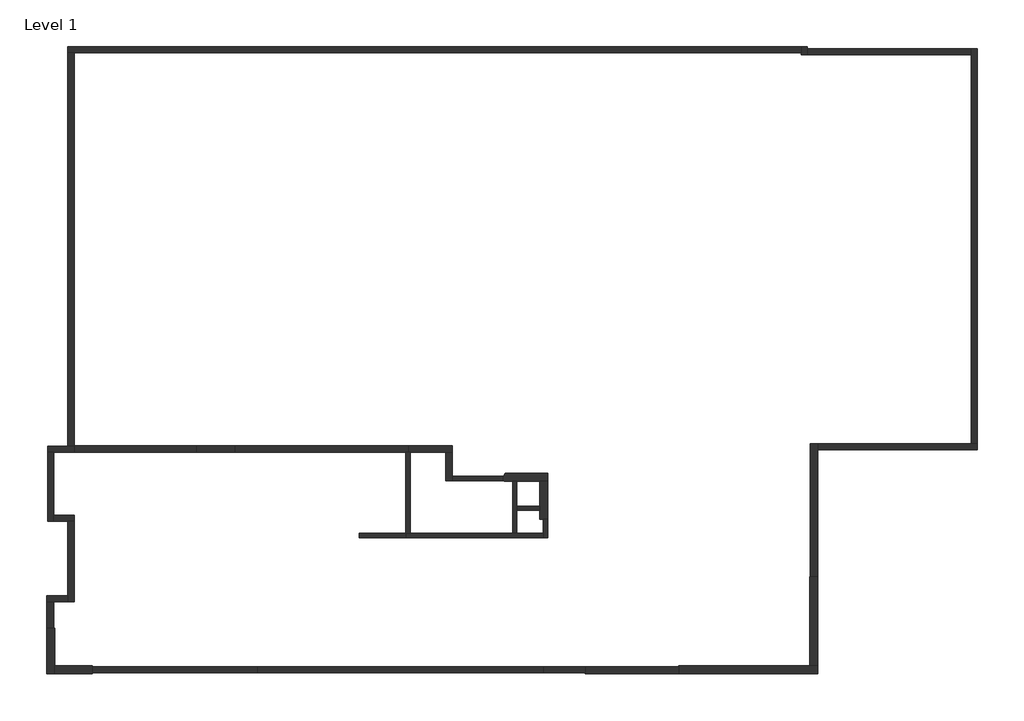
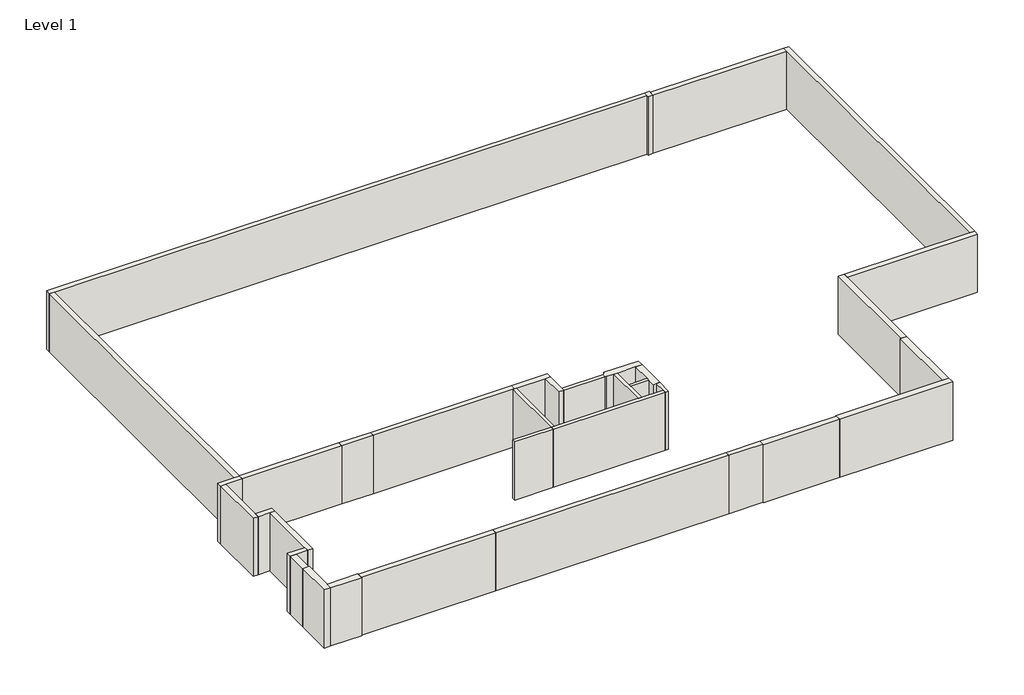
# One storey: 35 walls.
"""IFC4 building model written with IfcOpenShell, lengths in millimetres."""

from ifc_helpers import new_model, si_unit, frame, origin, origin_with_axes, place, context, project, spatial, polyline, circle_curve, outline, extrude, faceted_brep, element, save
from ifc_brep_helpers import plane_surface, cylinder_surface, revolved_surface, advanced_brep

model = new_model("IFC4")

# Units and contexts
model_context = context("Model", 3, world=origin())
ifc_project = project(units=[si_unit("LENGTHUNIT", "METRE", prefix="MILLI")], contexts=[model_context])

# Site, building, storey
site = spatial("IfcSite", under=ifc_project)
building = spatial("IfcBuilding", under=site)
storey = spatial("IfcBuildingStorey", under=building, Name="Level 1", Elevation=0.0)

# Walls
placement = place(None, origin())
element("IfcWall", 1, ObjectType="1-1 (202mm)", at=placement, inside=storey, context=model_context, shape_type="SweptSolid", body=[
    extrude(outline(polyline([(-3604.2468006, -12070.9136722), (-1302.3900006, -12070.9136722), (-1302.3900006, -12272.9136722), (-3604.2468006, -12272.9136722), (-3604.2468006, -12070.9136722)])), origin_with_axes(), (0.0, 0.0, 1.0), 3700.0),
])
element("IfcWall", 2, ObjectType="1-2 (202mm)", at=placement, inside=storey, context=model_context, shape_type="Brep", body=[
    faceted_brep([(5449.3363994, -12070.9136722, 0.0), (4148.6139994, -12070.9136722, 0.0), (3946.6139994, -12070.9136722, 0.0), (-1100.3900006, -12070.9136722, 0.0), (-1302.3900006, -12070.9136722, 0.0), (-1302.3900006, -12070.9136722, 3700.0), (-1100.3900006, -12070.9136722, 3700.0), (3946.6139994, -12070.9136722, 3700.0), (4148.6139994, -12070.9136722, 3700.0), (5449.3363994, -12070.9136722, 3700.0), (5449.3363994, -12272.9136722, 0.0), (5449.3363994, -12272.9136722, 3700.0), (-1302.3900006, -12272.9136722, 3700.0), (-1302.3900006, -12272.9136722, 0.0)], [[[0, 1, 2, 3, 4, 5, 6, 7, 8, 9]], [[10, 11, 12, 13]], [[4, 3, 2, 1, 0, 10, 13]], [[9, 8, 7, 6, 5, 12, 11]], [[0, 9, 11, 10]], [[5, 4, 13, 12]]]),
])
element("IfcWall", 3, ObjectType="1-2 (202mm)", at=placement, inside=storey, context=model_context, shape_type="Brep", body=[
    faceted_brep([(-1100.3900006, -12070.9136722, 0.0), (-1100.3900006, -8073.7104722, 0.0), (-1100.3900006, -8073.7104722, 3700.0), (-1100.3900006, -12070.9136722, 3700.0), (-1302.3900006, -12070.9136722, 0.0), (-1302.3900006, -12070.9136722, 3700.0), (-1302.3900006, -8073.7104722, 3700.0), (-1302.3900006, -8073.7104722, 0.0), (-1201.3900006, -8073.7104722, 0.0), (-1201.3900006, -8073.7104722, 3700.0)], [[[0, 1, 2, 3]], [[4, 5, 6, 7]], [[1, 0, 4, 7, 8]], [[3, 2, 9, 6, 5]], [[2, 1, 8, 7, 6, 9]], [[0, 3, 5, 4]]]),
])
element("IfcWall", 4, ObjectType="1-2 (308mm)", at=placement, inside=storey, context=model_context, shape_type="Brep", body=[
    faceted_brep([(-9700.7964006, -8073.7104722, 0.0), (-1302.3900006, -8073.7104722, 0.0), (-1201.3900006, -8073.7104722, 0.0), (-1201.3900006, -8073.7104722, 3700.0), (-1302.3900006, -8073.7104722, 3700.0), (-9700.7964006, -8073.7104722, 3700.0), (-9700.7964006, -7764.7104722, 0.0), (-9700.7964006, -7764.7104722, 3700.0), (-1201.3900006, -7764.7104722, 3700.0), (-1201.3900006, -7764.7104722, 0.0)], [[[0, 1, 2, 3, 4, 5]], [[6, 7, 8, 9]], [[2, 1, 0, 6, 9]], [[3, 2, 9, 8]], [[5, 4, 3, 8, 7]], [[0, 5, 7, 6]]]),
])
element("IfcWall", 5, ObjectType="2-2 (202mm)", at=placement, inside=storey, context=model_context, shape_type="SweptSolid", body=[
    extrude(outline(polyline([(3442.2435994, -9470.2344722), (961.7435994, -9470.2344722), (961.7435994, -9268.2344722), (3442.2435994, -9268.2344722), (3442.2435994, -9470.2344722)])), origin_with_axes(), (0.0, 0.0, 1.0), 3700.0),
])
element("IfcWall", 6, ObjectType="2-2 (202mm)", at=placement, inside=storey, context=model_context, shape_type="Brep", body=[
    faceted_brep([(5449.3363994, -11367.5808722, 0.0), (5449.3363994, -12070.9136722, 0.0), (5449.3363994, -12272.9136722, 0.0), (5449.3363994, -12272.9136722, 3700.0), (5449.3363994, -12070.9136722, 3700.0), (5449.3363994, -11367.5808722, 3700.0), (5651.3363994, -11367.5808722, 0.0), (5651.3363994, -11367.5808722, 3700.0), (5651.3363994, -12272.9136722, 3700.0), (5651.3363994, -12272.9136722, 0.0)], [[[0, 1, 2, 3, 4, 5]], [[6, 7, 8, 9]], [[2, 1, 0, 6, 9]], [[5, 4, 3, 8, 7]], [[0, 5, 7, 6]], [[3, 2, 9, 8]]]),
])
element("IfcWall", 7, ObjectType="2-2 (202mm)", at=placement, inside=storey, context=model_context, shape_type="Brep", body=[
    faceted_brep([(4148.6139994, -12070.9136722, 0.0), (4148.6139994, -10924.5456722, 0.0), (4148.6139994, -10722.5456722, 0.0), (4148.6139994, -9518.3904722, 0.0), (4148.6139994, -9518.3904722, 3700.0), (4148.6139994, -10722.5456722, 3700.0), (4148.6139994, -10924.5456722, 3700.0), (4148.6139994, -12070.9136722, 3700.0), (3946.6139994, -12070.9136722, 0.0), (3946.6139994, -12070.9136722, 3700.0), (3946.6139994, -9518.3904722, 3700.0), (3946.6139994, -9518.3904722, 0.0)], [[[0, 1, 2, 3, 4, 5, 6, 7]], [[8, 9, 10, 11]], [[3, 2, 1, 0, 8, 11]], [[7, 6, 5, 4, 10, 9]], [[4, 3, 11, 10]], [[0, 7, 9, 8]]]),
])
element("IfcWall", 8, ObjectType="2-2 (202mm)", at=placement, inside=storey, context=model_context, shape_type="SweptSolid", body=[
    extrude(outline(polyline([(5256.3363994, -10924.5456722), (4148.6139994, -10924.5456722), (4148.6139994, -10722.5456722), (5256.3363994, -10722.5456722), (5256.3363994, -10924.5456722)])), origin_with_axes(), (0.0, 0.0, 1.0), 3700.0),
])
element("IfcWall", 9, ObjectType="2-2 (308mm)", at=placement, inside=storey, context=model_context, shape_type="Brep", body=[
    faceted_brep([(-17598.9476006, -8074.5120722, 0.0), (-11598.1428006, -8074.5120722, 0.0), (-11598.1428006, -8074.5120722, 3700.0), (-17598.9476006, -8074.5120722, 3700.0), (-17598.9476006, -7765.5120722, 0.0), (-17598.9476006, -7765.5120722, 3700.0), (-11598.1428006, -7765.5120722, 3700.0), (-11598.1428006, -7765.5120722, 0.0), (-17598.9476006, -7776.5120722, 0.0), (-11598.1428006, -8073.7104722, 0.0), (-11598.1428006, -8073.7104722, 3700.0), (-17598.9476006, -7776.5120722, 3700.0)], [[[0, 1, 2, 3]], [[4, 5, 6, 7]], [[1, 0, 8, 4, 7, 9]], [[2, 1, 9, 7, 6, 10]], [[3, 2, 10, 6, 5, 11]], [[0, 3, 11, 5, 4, 8]]]),
])
element("IfcWall", 10, ObjectType="2-2 (308mm)", at=placement, inside=storey, context=model_context, shape_type="Brep", body=[
    faceted_brep([(-1201.3900006, -8073.7104722, 0.0), (-1100.3900006, -8073.7104722, 0.0), (652.7435994, -8073.7104722, 0.0), (961.7435994, -8073.7104722, 0.0), (961.7435994, -8073.7104722, 3700.0), (652.7435994, -8073.7104722, 3700.0), (-1100.3900006, -8073.7104722, 3700.0), (-1201.3900006, -8073.7104722, 3700.0), (-1201.3900006, -7764.7104722, 0.0), (-1201.3900006, -7764.7104722, 3700.0), (961.7435994, -7764.7104722, 3700.0), (961.7435994, -7764.7104722, 0.0)], [[[0, 1, 2, 3, 4, 5, 6, 7]], [[8, 9, 10, 11]], [[3, 2, 1, 0, 8, 11]], [[7, 6, 5, 4, 10, 9]], [[0, 7, 9, 8]], [[4, 3, 11, 10]]]),
])
element("IfcWall", 11, ObjectType="2-2 (308mm)", at=placement, inside=storey, context=model_context, shape_type="Brep", body=[
    faceted_brep([(652.7435994, -8073.7104722, 0.0), (652.7435994, -9470.2344722, 0.0), (652.7435994, -9470.2344722, 3700.0), (652.7435994, -8073.7104722, 3700.0), (961.7435994, -8073.7104722, 0.0), (961.7435994, -8073.7104722, 3700.0), (961.7435994, -9268.2344722, 3700.0), (961.7435994, -9470.2344722, 3700.0), (961.7435994, -9470.2344722, 0.0), (961.7435994, -9268.2344722, 0.0)], [[[0, 1, 2, 3]], [[4, 5, 6, 7, 8, 9]], [[1, 0, 4, 9, 8]], [[3, 2, 7, 6, 5]], [[0, 3, 5, 4]], [[2, 1, 8, 7]]]),
])
element("IfcWall", 12, ObjectType="2-2 (395mm) Str", at=placement, inside=storey, context=model_context, shape_type="AdvancedBrep", body=[
    advanced_brep(
    [(5651.3363994, -9123.3904722, 3700.0), (5651.3363994, -9123.3904722, 0.0), (3576.0401632, -9123.3904722, 0.0), (3576.0401632, -9123.3904722, 3700.0), (5651.3363994, -9518.3904722, 0.0), (5651.3363994, -9518.3904722, 3700.0), (5256.3363994, -9518.3904722, 3700.0), (4148.6139994, -9518.3904722, 3700.0), (3946.6139994, -9518.3904722, 3700.0), (3532.4723994, -9518.3904722, 3700.0), (3532.4723994, -9518.3904722, 0.0), (3946.6139994, -9518.3904722, 0.0), (4148.6139994, -9518.3904722, 0.0), (5256.3363994, -9518.3904722, 0.0), (3532.4723994, -9470.2344722, 0.0), (3442.2435994, -9470.2344722, 0.0), (3442.2435994, -9268.2344722, 0.0), (3532.4723994, -9186.1140722, 0.0), (3442.2435994, -9470.2344722, 3700.0), (3442.2435994, -9268.2344722, 3700.0), (3532.4723994, -9186.1140722, 3700.0), (3532.4723994, -9470.2344722, 3700.0)],
    [
        (0, 1),
        (1, 2),
        (2, 3),
        (3, 0),
        (4, 5),
        (5, 6),
        (6, 7),
        (7, 8),
        (8, 9),
        (9, 10),
        (10, 11),
        (11, 12),
        (12, 13),
        (13, 4),
        (1, 4),
        (10, 14),
        (14, 15),
        (15, 16),
        (16, 17, circle_curve(frame((3449.7133014, -9185.8126138, 0.0), z_axis=(0.0, 0.0, 1.0), x_axis=(1.0, 0.0, 0.0)), 82.7596471)),
        (17, 2, circle_curve(frame((3599.7600786, -9186.3591744, 0.0), z_axis=(0.0, 0.0, -1.0), x_axis=(1.0, 0.0, 0.0)), 67.2881256)),
        (15, 18),
        (18, 19),
        (19, 16),
        (5, 0),
        (3, 20, circle_curve(frame((3599.7600786, -9186.3591744, 3700.0), z_axis=(0.0, 0.0, 1.0), x_axis=(1.0, 0.0, 0.0)), 67.2881256)),
        (20, 19, circle_curve(frame((3449.7133014, -9185.8126138, 3700.0), z_axis=(0.0, 0.0, -1.0), x_axis=(1.0, 0.0, 0.0)), 82.7596471)),
        (18, 21),
        (21, 9),
        (17, 20),
        (21, 14),
    ],
    [
        plane_surface(frame((5246.8259994, -9123.3904722, 0.0), z_axis=(0.0, 1.0, 0.0), x_axis=(-1.0, 0.0, 0.0))),
        plane_surface(frame((5246.8259994, -9518.3904722, 0.0), z_axis=(0.0, -1.0, 0.0), x_axis=(1.0, 0.0, 0.0))),
        plane_surface(frame((5453.8363994, -9123.3904722, 0.0), z_axis=(0.0, 0.0, -1.0), x_axis=(0.0, -1.0, 0.0))),
        plane_surface(frame((3442.2435994, -9123.3904722, 0.0), z_axis=(-1.0, 0.0, 0.0), x_axis=(0.0, -1.0, 0.0))),
        plane_surface(frame((3442.2435994, -9123.3904722, 3700.0), z_axis=(0.0, 0.0, 1.0), x_axis=(0.0, -1.0, 0.0))),
        cylinder_surface(frame((3599.7600786, -9186.3591744, 0.0), z_axis=(0.0, 0.0, -1.0), x_axis=(1.0, 0.0, 0.0)), 67.2881256),
        revolved_surface(polyline([(3532.4729485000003, -9185.8126138, 3700.0), (3532.4729485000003, -9185.8126138, 0.0)]), (3449.7133014, -9185.8126138, 0.0), (0.0, 0.0, 1.0)),
        plane_surface(frame((3532.4723994, -9545.2344722, 4000.0), z_axis=(-1.0, 0.0, 0.0), x_axis=(0.0, 0.0, -1.0))),
        plane_surface(frame((3532.4723994, -9470.2344722, 4000.0), z_axis=(0.0, -1.0, 0.0), x_axis=(0.0, 0.0, -1.0))),
        plane_surface(frame((5651.3363994, -9612.5478804, 0.0), z_axis=(1.0, 0.0, 0.0), x_axis=(0.0, 1.0, 0.0))),
    ],
    [
        (0, [[1, 2, 3, 4]]),
        (1, [[5, 6, 7, 8, 9, 10, 11, 12, 13, 14]]),
        (2, [[15, -14, -13, -12, -11, 16, 17, 18, 19, 20, -2]]),
        (3, [[-18, 21, 22, 23]]),
        (4, [[24, -4, 25, 26, -22, 27, 28, -9, -8, -7, -6]]),
        (5, [[29, -25, -3, -20]]),
        (6, [[-29, -19, -23, -26]]),
        (7, [[30, -16, -10, -28]]),
        (8, [[-30, -27, -21, -17]]),
        (9, [[-1, -24, -5, -15]]),
    ],
),
])
element("IfcWall", 13, ObjectType="2-2 (395mm) Str", at=placement, inside=storey, context=model_context, shape_type="Brep", body=[
    faceted_brep([(5256.3363994, -9518.3904722, 3700.0), (5256.3363994, -9518.3904722, 0.0), (5256.3363994, -10722.5456722, 0.0), (5256.3363994, -10924.5456722, 0.0), (5256.3363994, -11367.5808722, 0.0), (5256.3363994, -11367.5808722, 3700.0), (5256.3363994, -10924.5456722, 3700.0), (5256.3363994, -10722.5456722, 3700.0), (5651.3363994, -9518.3904722, 0.0), (5651.3363994, -9518.3904722, 3700.0), (5651.3363994, -11367.5808722, 3700.0), (5651.3363994, -11367.5808722, 0.0)], [[[0, 1, 2, 3, 4, 5, 6, 7]], [[8, 9, 10, 11]], [[1, 8, 11, 4, 3, 2]], [[9, 0, 7, 6, 5, 10]], [[1, 0, 9, 8]], [[5, 4, 11, 10]]]),
])
element("IfcWall", 14, ObjectType="5-2 (308mm)", at=placement, inside=storey, context=model_context, shape_type="Brep", body=[
    faceted_brep([(-11598.1428006, -8073.7104722, 0.0), (-9700.7964006, -8073.7104722, 0.0), (-9700.7964006, -8073.7104722, 3700.0), (-11598.1428006, -8073.7104722, 3700.0), (-11598.1428006, -7764.7104722, 0.0), (-11598.1428006, -7764.7104722, 3700.0), (-9700.7964006, -7764.7104722, 3700.0), (-9700.7964006, -7764.7104722, 0.0), (-11598.1428006, -7765.5120722, 0.0), (-11598.1428006, -7765.5120722, 3700.0)], [[[0, 1, 2, 3]], [[4, 5, 6, 7]], [[1, 0, 8, 4, 7]], [[2, 1, 7, 6]], [[3, 2, 6, 5, 9]], [[0, 3, 9, 5, 4, 8]]]),
])
element("IfcWall", 15, ObjectType="7-1 (298mm)", at=placement, inside=storey, context=model_context, shape_type="Brep", body=[
    faceted_brep([(-17896.9476006, -11463.8928722, 0.0), (-17896.9476006, -15123.7488722, 0.0), (-17896.9476006, -15421.7488722, 0.0), (-17896.9476006, -15421.7488722, 3700.0), (-17896.9476006, -15123.7488722, 3700.0), (-17896.9476006, -11463.8928722, 3700.0), (-17598.9476006, -11463.8928722, 0.0), (-17598.9476006, -11463.8928722, 3700.0), (-17598.9476006, -15421.7488722, 3700.0), (-17598.9476006, -15421.7488722, 0.0)], [[[0, 1, 2, 3, 4, 5]], [[6, 7, 8, 9]], [[2, 1, 0, 6, 9]], [[5, 4, 3, 8, 7]], [[0, 5, 7, 6]], [[3, 2, 9, 8]]]),
])
element("IfcWall", 16, ObjectType="7-1 (298mm)", at=placement, inside=storey, context=model_context, shape_type="Brep", body=[
    faceted_brep([(-17896.9476006, -15123.7488722, 0.0), (-18946.7484006, -15123.7488722, 0.0), (-18946.7484006, -15123.7488722, 3700.0), (-17896.9476006, -15123.7488722, 3700.0), (-17896.9476006, -15421.7488722, 0.0), (-17896.9476006, -15421.7488722, 3700.0), (-18599.7484006, -15421.7488722, 3700.0), (-18946.7484006, -15421.7488722, 3700.0), (-18946.7484006, -15421.7488722, 0.0), (-18599.7484006, -15421.7488722, 0.0)], [[[0, 1, 2, 3]], [[4, 5, 6, 7, 8, 9]], [[1, 0, 4, 9, 8]], [[3, 2, 7, 6, 5]], [[0, 3, 5, 4]], [[2, 1, 8, 7]]]),
])
element("IfcWall", 17, ObjectType="7-1 (298mm)", at=placement, inside=storey, context=model_context, shape_type="SweptSolid", body=[
    extrude(outline(polyline([(-8602.6788006, -18918.5976722), (-16702.6788006, -18918.5976722), (-16702.6788006, -18620.5976722), (-8602.6788006, -18620.5976722), (-8602.6788006, -18918.5976722)])), origin_with_axes(), (0.0, 0.0, 1.0), 3700.0),
])
element("IfcWall", 18, ObjectType="7-1 (347mm)", at=placement, inside=storey, context=model_context, shape_type="SweptSolid", body=[
    extrude(outline(polyline([(-18946.7484006, -16722.5280722), (-18946.7484006, -15421.7488722), (-18599.7484006, -15421.7488722), (-18599.7484006, -16722.5280722), (-18946.7484006, -16722.5280722)])), origin_with_axes(), (0.0, 0.0, 1.0), 3700.0),
])
element("IfcWall", 19, ObjectType="7-1 (356mm)", at=placement, inside=storey, context=model_context, shape_type="Brep", body=[
    faceted_brep([(18903.8675994, -14199.1536722, 0.0), (18903.8675994, -7967.7672722, 0.0), (18903.8675994, -7669.7672722, 0.0), (18903.8675994, -7669.7672722, 3700.0), (18903.8675994, -7967.7672722, 3700.0), (18903.8675994, -14199.1536722, 3700.0), (18547.8675994, -14199.1536722, 0.0), (18547.8675994, -14199.1536722, 3700.0), (18547.8675994, -7669.7672722, 3700.0), (18547.8675994, -7669.7672722, 0.0)], [[[0, 1, 2, 3, 4, 5]], [[6, 7, 8, 9]], [[2, 1, 0, 6, 9]], [[5, 4, 3, 8, 7]], [[0, 5, 7, 6]], [[3, 2, 9, 8]]]),
])
element("IfcWall", 20, ObjectType="7-1 (395mm) _ Str", at=placement, inside=storey, context=model_context, shape_type="Brep", body=[
    faceted_brep([(-18946.7484006, -16722.5280722, 0.0), (-18946.7484006, -18966.5976722, 0.0), (-18946.7484006, -18966.5976722, 3700.0), (-18946.7484006, -16722.5280722, 3700.0), (-18551.7484006, -16722.5280722, 0.0), (-18551.7484006, -16722.5280722, 3700.0), (-18551.7484006, -18571.5976722, 3700.0), (-18551.7484006, -18966.5976722, 3700.0), (-18551.7484006, -18966.5976722, 0.0), (-18551.7484006, -18571.5976722, 0.0)], [[[0, 1, 2, 3]], [[4, 5, 6, 7, 8, 9]], [[1, 0, 4, 9, 8]], [[3, 2, 7, 6, 5]], [[0, 3, 5, 4]], [[2, 1, 8, 7]]]),
])
element("IfcWall", 21, ObjectType="7-1 (395mm) _ Str", at=placement, inside=storey, context=model_context, shape_type="SweptSolid", body=[
    extrude(outline(polyline([(-16702.6788006, -18966.5976722), (-18551.7484006, -18966.5976722), (-18551.7484006, -18571.5976722), (-16702.6788006, -18571.5976722), (-16702.6788006, -18966.5976722)])), origin_with_axes(), (0.0, 0.0, 1.0), 3700.0),
])
element("IfcWall", 22, ObjectType="7-2 (298mm)", at=placement, inside=storey, context=model_context, shape_type="Brep", body=[
    faceted_brep([(-18898.5924006, -8074.5120722, 0.0), (-18898.5924006, -11463.8928722, 0.0), (-18898.5924006, -11463.8928722, 3700.0), (-18898.5924006, -8074.5120722, 3700.0), (-18600.5924006, -8074.5120722, 0.0), (-18600.5924006, -8074.5120722, 3700.0), (-18600.5924006, -11165.8928722, 3700.0), (-18600.5924006, -11463.8928722, 3700.0), (-18600.5924006, -11463.8928722, 0.0), (-18600.5924006, -11165.8928722, 0.0)], [[[0, 1, 2, 3]], [[4, 5, 6, 7, 8, 9]], [[1, 0, 4, 9, 8]], [[3, 2, 7, 6, 5]], [[2, 1, 8, 7]], [[0, 3, 5, 4]]]),
])
element("IfcWall", 23, ObjectType="7-2 (298mm)", at=placement, inside=storey, context=model_context, shape_type="Brep", body=[
    faceted_brep([(-18600.5924006, -11463.8928722, 0.0), (-17896.9476006, -11463.8928722, 0.0), (-17598.9476006, -11463.8928722, 0.0), (-17598.9476006, -11463.8928722, 3700.0), (-17896.9476006, -11463.8928722, 3700.0), (-18600.5924006, -11463.8928722, 3700.0), (-18600.5924006, -11165.8928722, 0.0), (-18600.5924006, -11165.8928722, 3700.0), (-17598.9476006, -11165.8928722, 3700.0), (-17598.9476006, -11165.8928722, 0.0)], [[[0, 1, 2, 3, 4, 5]], [[6, 7, 8, 9]], [[2, 1, 0, 6, 9]], [[5, 4, 3, 8, 7]], [[0, 5, 7, 6]], [[3, 2, 9, 8]]]),
])
element("IfcWall", 24, ObjectType="7-2 (298mm)", at=placement, inside=storey, context=model_context, shape_type="SweptSolid", body=[
    extrude(outline(polyline([(5449.0811994, -18918.5976722), (-8602.6788006, -18918.5976722), (-8602.6788006, -18620.5976722), (5449.0811994, -18620.5976722), (5449.0811994, -18918.5976722)])), origin_with_axes(), (0.0, 0.0, 1.0), 3700.0),
])
element("IfcWall", 25, ObjectType="7-2 (298mm)", at=placement, inside=storey, context=model_context, shape_type="Brep", body=[
    faceted_brep([(18903.8675994, -7967.7672722, 0.0), (26753.2955994, -7967.7672722, 0.0), (26753.2955994, -7967.7672722, 3700.0), (18903.8675994, -7967.7672722, 3700.0), (18903.8675994, -7669.7672722, 0.0), (18903.8675994, -7669.7672722, 3700.0), (26455.2955994, -7669.7672722, 3700.0), (26753.2955994, -7669.7672722, 3700.0), (26753.2955994, -7669.7672722, 0.0), (26455.2955994, -7669.7672722, 0.0)], [[[0, 1, 2, 3]], [[4, 5, 6, 7, 8, 9]], [[1, 0, 4, 9, 8]], [[3, 2, 7, 6, 5]], [[0, 3, 5, 4]], [[2, 1, 8, 7]]]),
])
element("IfcWall", 26, ObjectType="7-2 (298mm)", at=placement, inside=storey, context=model_context, shape_type="Brep", body=[
    faceted_brep([(26753.2955994, -7669.7672722, 0.0), (26753.2955994, 11728.0367278, 0.0), (26753.2955994, 11728.0367278, 3700.0), (26753.2955994, -7669.7672722, 3700.0), (26455.2955994, -7669.7672722, 0.0), (26455.2955994, -7669.7672722, 3700.0), (26455.2955994, 11430.0367278, 3700.0), (26455.2955994, 11728.0367278, 3700.0), (26455.2955994, 11728.0367278, 0.0), (26455.2955994, 11430.0367278, 0.0)], [[[0, 1, 2, 3]], [[4, 5, 6, 7, 8, 9]], [[1, 0, 4, 9, 8]], [[3, 2, 7, 6, 5]], [[0, 3, 5, 4]], [[2, 1, 8, 7]]]),
])
element("IfcWall", 27, ObjectType="7-2 (298mm)", at=placement, inside=storey, context=model_context, shape_type="SweptSolid", body=[
    extrude(outline(polyline([(18403.0451994, 11728.0367278), (26455.2955994, 11728.0367278), (26455.2955994, 11430.0367278), (18403.0451994, 11430.0367278), (18403.0451994, 11728.0367278)])), origin_with_axes(), (0.0, 0.0, 1.0), 3700.0),
])
element("IfcWall", 28, ObjectType="7-2 (298mm)", at=placement, inside=storey, context=model_context, shape_type="Brep", body=[
    faceted_brep([(18403.0451994, 11430.0367278, 0.0), (18403.0451994, 11728.0367278, 0.0), (18403.0451994, 11833.9799278, 0.0), (18403.0451994, 11833.9799278, 3700.0), (18403.0451994, 11728.0367278, 3700.0), (18403.0451994, 11430.0367278, 3700.0), (18105.0451994, 11430.0367278, 0.0), (18105.0451994, 11430.0367278, 3700.0), (18105.0451994, 11535.9799278, 3700.0), (18105.0451994, 11833.9799278, 3700.0), (18105.0451994, 11833.9799278, 0.0), (18105.0451994, 11535.9799278, 0.0)], [[[0, 1, 2, 3, 4, 5]], [[6, 7, 8, 9, 10, 11]], [[2, 1, 0, 6, 11, 10]], [[5, 4, 3, 9, 8, 7]], [[0, 5, 7, 6]], [[3, 2, 10, 9]]]),
])
element("IfcWall", 29, ObjectType="7-2 (298mm)", at=placement, inside=storey, context=model_context, shape_type="Brep", body=[
    faceted_brep([(18105.0451994, 11833.9799278, 0.0), (-17896.9476006, 11833.9799278, 0.0), (-17896.9476006, 11833.9799278, 3700.0), (18105.0451994, 11833.9799278, 3700.0), (18105.0451994, 11535.9799278, 0.0), (18105.0451994, 11535.9799278, 3700.0), (-17598.9476006, 11535.9799278, 3700.0), (-17896.9476006, 11535.9799278, 3700.0), (-17896.9476006, 11535.9799278, 0.0), (-17598.9476006, 11535.9799278, 0.0)], [[[0, 1, 2, 3]], [[4, 5, 6, 7, 8, 9]], [[1, 0, 4, 9, 8]], [[3, 2, 7, 6, 5]], [[0, 3, 5, 4]], [[2, 1, 8, 7]]]),
])
element("IfcWall", 30, ObjectType="7-2 (298mm)", at=placement, inside=storey, context=model_context, shape_type="Brep", body=[
    faceted_brep([(-17896.9476006, 11535.9799278, 0.0), (-17896.9476006, -7776.5120722, 0.0), (-17896.9476006, -7776.5120722, 3700.0), (-17896.9476006, 11535.9799278, 3700.0), (-17598.9476006, 11535.9799278, 0.0), (-17598.9476006, 11535.9799278, 3700.0), (-17598.9476006, -7765.5120722, 3700.0), (-17598.9476006, -7776.5120722, 3700.0), (-17598.9476006, -7776.5120722, 0.0), (-17598.9476006, -7765.5120722, 0.0)], [[[0, 1, 2, 3]], [[4, 5, 6, 7, 8, 9]], [[1, 0, 4, 9, 8]], [[3, 2, 7, 6, 5]], [[0, 3, 5, 4]], [[2, 1, 8, 7]]]),
])
element("IfcWall", 31, ObjectType="7-2 (298mm)", at=placement, inside=storey, context=model_context, shape_type="Brep", body=[
    faceted_brep([(-17598.9476006, -7776.5120722, 0.0), (-17896.9476006, -7776.5120722, 0.0), (-18898.5924006, -7776.5120722, 0.0), (-18898.5924006, -7776.5120722, 3700.0), (-17896.9476006, -7776.5120722, 3700.0), (-17598.9476006, -7776.5120722, 3700.0), (-17598.9476006, -8074.5120722, 0.0), (-17598.9476006, -8074.5120722, 3700.0), (-18600.5924006, -8074.5120722, 3700.0), (-18898.5924006, -8074.5120722, 3700.0), (-18898.5924006, -8074.5120722, 0.0), (-18600.5924006, -8074.5120722, 0.0)], [[[0, 1, 2, 3, 4, 5]], [[6, 7, 8, 9, 10, 11]], [[2, 1, 0, 6, 11, 10]], [[5, 4, 3, 9, 8, 7]], [[3, 2, 10, 9]], [[0, 5, 7, 6]]]),
])
element("IfcWall", 32, ObjectType="7-2 (395mm) _ Str", at=placement, inside=storey, context=model_context, shape_type="Brep", body=[
    faceted_brep([(12100.5267994, -18966.5976722, 0.0), (18903.8675994, -18966.5976722, 0.0), (18903.8675994, -18966.5976722, 3700.0), (12100.5267994, -18966.5976722, 3700.0), (12100.5267994, -18571.5976722, 0.0), (12100.5267994, -18571.5976722, 3700.0), (18508.8675994, -18571.5976722, 3700.0), (18903.8675994, -18571.5976722, 3700.0), (18903.8675994, -18571.5976722, 0.0), (18508.8675994, -18571.5976722, 0.0), (12100.5267994, -18620.5976722, 0.0), (12100.5267994, -18620.5976722, 3700.0)], [[[0, 1, 2, 3]], [[4, 5, 6, 7, 8, 9]], [[1, 0, 10, 4, 9, 8]], [[3, 2, 7, 6, 5, 11]], [[0, 3, 11, 5, 4, 10]], [[2, 1, 8, 7]]]),
])
element("IfcWall", 33, ObjectType="7-2 (395mm) _ Str", at=placement, inside=storey, context=model_context, shape_type="Brep", body=[
    faceted_brep([(18903.8675994, -18571.5976722, 0.0), (18903.8675994, -14199.1536722, 0.0), (18903.8675994, -14199.1536722, 3700.0), (18903.8675994, -18571.5976722, 3700.0), (18508.8675994, -18571.5976722, 0.0), (18508.8675994, -18571.5976722, 3700.0), (18508.8675994, -14199.1536722, 3700.0), (18508.8675994, -14199.1536722, 0.0), (18547.8675994, -14199.1536722, 0.0), (18547.8675994, -14199.1536722, 3700.0)], [[[0, 1, 2, 3]], [[4, 5, 6, 7]], [[1, 0, 4, 7, 8]], [[2, 1, 8, 7, 6, 9]], [[3, 2, 9, 6, 5]], [[0, 3, 5, 4]]]),
])
element("IfcWall", 34, ObjectType="7-3 (347mm)", at=placement, inside=storey, context=model_context, shape_type="Brep", body=[
    faceted_brep([(7500.5267994, -18966.5976722, 0.0), (12100.5267994, -18966.5976722, 0.0), (12100.5267994, -18966.5976722, 3700.0), (7500.5267994, -18966.5976722, 3700.0), (7500.5267994, -18620.5976722, 0.0), (7500.5267994, -18620.5976722, 3700.0), (12100.5267994, -18620.5976722, 3700.0), (12100.5267994, -18620.5976722, 0.0), (7500.5267994, -18918.5976722, 0.0), (7500.5267994, -18918.5976722, 3700.0)], [[[0, 1, 2, 3]], [[4, 5, 6, 7]], [[1, 0, 8, 4, 7]], [[2, 1, 7, 6]], [[3, 2, 6, 5, 9]], [[0, 3, 9, 5, 4, 8]]]),
])
element("IfcWall", 35, ObjectType="7-5 (298mm)", at=placement, inside=storey, context=model_context, shape_type="SweptSolid", body=[
    extrude(outline(polyline([(7500.5267994, -18918.5976722), (5449.0811994, -18918.5976722), (5449.0811994, -18620.5976722), (7500.5267994, -18620.5976722), (7500.5267994, -18918.5976722)])), origin_with_axes(), (0.0, 0.0, 1.0), 3700.0),
])

save(model, "model.ifc")
